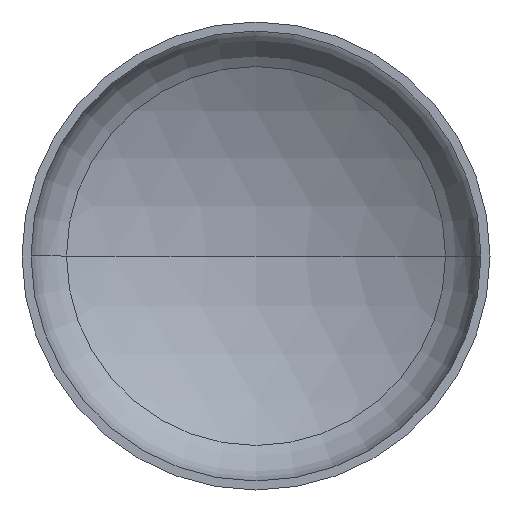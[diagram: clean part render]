
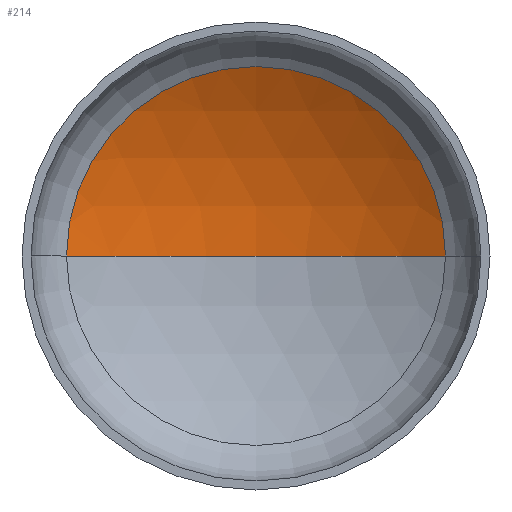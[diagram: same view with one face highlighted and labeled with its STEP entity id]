
A CAD part, front view. The second image highlights one B-rep face of the part: STEP entity #214.
In plain terms, the highlighted spherical face has radius 1120 mm.
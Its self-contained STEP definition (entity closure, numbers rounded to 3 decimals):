
#20 = EDGE_LOOP ( 'NONE', ( #111, #97, #45 ) ) ;
#27 = AXIS2_PLACEMENT_3D ( 'NONE', #232, #292, #204 ) ;
#42 = AXIS2_PLACEMENT_3D ( 'NONE', #115, #61, #54 ) ;
#44 = AXIS2_PLACEMENT_3D ( 'NONE', #185, #348, #210 ) ;
#45 = ORIENTED_EDGE ( 'NONE', *, *, #102, .T. ) ;
#47 = VERTEX_POINT ( 'NONE', #267 ) ;
#49 = AXIS2_PLACEMENT_3D ( 'NONE', #228, #229, #217 ) ;
#54 = DIRECTION ( 'NONE',  ( 1., 0., 0. ) ) ;
#61 = DIRECTION ( 'NONE',  ( 0., 0., 1. ) ) ;
#97 = ORIENTED_EDGE ( 'NONE', *, *, #104, .T. ) ;
#100 = VERTEX_POINT ( 'NONE', #207 ) ;
#102 = EDGE_CURVE ( 'NONE', #100, #126, #342, .T. ) ;
#104 = EDGE_CURVE ( 'NONE', #47, #100, #401, .T. ) ;
#109 = EDGE_CURVE ( 'NONE', #47, #126, #279, .T. ) ;
#111 = ORIENTED_EDGE ( 'NONE', *, *, #109, .F. ) ;
#115 = CARTESIAN_POINT ( 'NONE',  ( 0., -695.552, 0. ) ) ;
#126 = VERTEX_POINT ( 'NONE', #306 ) ;
#185 = CARTESIAN_POINT ( 'NONE',  ( 0., -695.552, 0. ) ) ;
#204 = DIRECTION ( 'NONE',  ( -1., 0., 0. ) ) ;
#206 = FACE_OUTER_BOUND ( 'NONE', #20, .T. ) ;
#207 = CARTESIAN_POINT ( 'NONE',  ( 566.807, 270.435, 0. ) ) ;
#210 = DIRECTION ( 'NONE',  ( -1., 0., 0. ) ) ;
#214 = ADVANCED_FACE ( 'NONE', ( #206 ), #335, .F. ) ;
#217 = DIRECTION ( 'NONE',  ( 1., 0., 0. ) ) ;
#228 = CARTESIAN_POINT ( 'NONE',  ( 0., 270.435, 0. ) ) ;
#229 = DIRECTION ( 'NONE',  ( 0., -1., 0. ) ) ;
#232 = CARTESIAN_POINT ( 'NONE',  ( 0., -695.552, 0. ) ) ;
#267 = CARTESIAN_POINT ( 'NONE',  ( 0., 424.448, 0. ) ) ;
#279 = CIRCLE ( 'NONE', #42, 1120. ) ;
#292 = DIRECTION ( 'NONE',  ( 0., 0., -1. ) ) ;
#306 = CARTESIAN_POINT ( 'NONE',  ( -566.807, 270.435, 0. ) ) ;
#335 = SPHERICAL_SURFACE ( 'NONE', #27, 1120. ) ;
#342 = CIRCLE ( 'NONE', #49, 566.807 ) ;
#348 = DIRECTION ( 'NONE',  ( 0., 0., -1. ) ) ;
#401 = CIRCLE ( 'NONE', #44, 1120. ) ;
